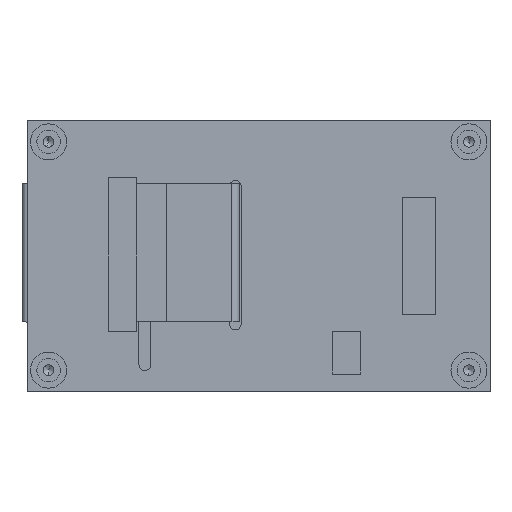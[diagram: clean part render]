
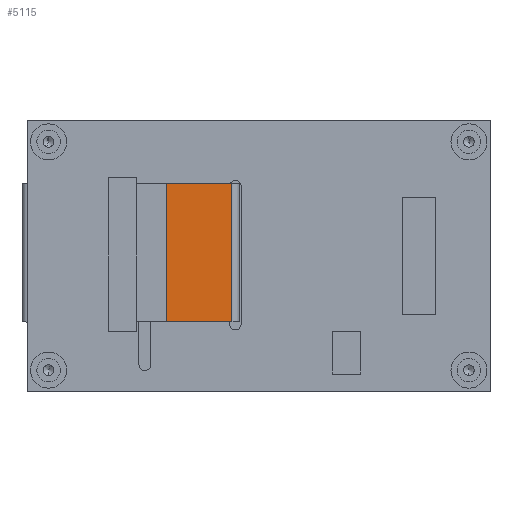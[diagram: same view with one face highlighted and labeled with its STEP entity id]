
A CAD part, front view. The second image highlights one B-rep face of the part: STEP entity #5115.
In plain terms, the highlighted planar face has unit normal (0, -1, 0) as drawn and (0, 1, 0) by its records, which use the part's own axes.
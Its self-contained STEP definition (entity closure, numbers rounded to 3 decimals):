
#109 = CARTESIAN_POINT ( 'NONE',  ( 25.76, 2.33, -11.5 ) ) ;
#182 = CARTESIAN_POINT ( 'NONE',  ( 25.76, 2.33, -11.5 ) ) ;
#201 = CARTESIAN_POINT ( 'NONE',  ( 60.39, 2.33, 11.5 ) ) ;
#971 = AXIS2_PLACEMENT_3D ( 'NONE', #1850, #1428, #3079 ) ;
#992 = VERTEX_POINT ( 'NONE', #182 ) ;
#1205 = EDGE_CURVE ( 'NONE', #4146, #992, #5198, .T. ) ;
#1283 = VECTOR ( 'NONE', #1422, 1000. ) ;
#1422 = DIRECTION ( 'NONE',  ( 0., 0., 1. ) ) ;
#1428 = DIRECTION ( 'NONE',  ( 0., 1., 0. ) ) ;
#1702 = CARTESIAN_POINT ( 'NONE',  ( 25.76, 2.33, 11.5 ) ) ;
#1804 = EDGE_LOOP ( 'NONE', ( #1920, #5186, #2096, #2643 ) ) ;
#1850 = CARTESIAN_POINT ( 'NONE',  ( 74.66, 2.33, 12. ) ) ;
#1920 = ORIENTED_EDGE ( 'NONE', *, *, #3974, .F. ) ;
#2096 = ORIENTED_EDGE ( 'NONE', *, *, #4456, .F. ) ;
#2470 = VECTOR ( 'NONE', #3744, 1000. ) ;
#2643 = ORIENTED_EDGE ( 'NONE', *, *, #5227, .F. ) ;
#2796 = VERTEX_POINT ( 'NONE', #3731 ) ;
#2882 = CARTESIAN_POINT ( 'NONE',  ( 20.76, 2.33, -11.5 ) ) ;
#3041 = CARTESIAN_POINT ( 'NONE',  ( 36.65, 2.33, 12. ) ) ;
#3079 = DIRECTION ( 'NONE',  ( 0., 0., -1. ) ) ;
#3417 = CARTESIAN_POINT ( 'NONE',  ( 36.65, 2.33, 11.5 ) ) ;
#3451 = DIRECTION ( 'NONE',  ( 0., 0., -1. ) ) ;
#3511 = LINE ( 'NONE', #201, #4355 ) ;
#3731 = CARTESIAN_POINT ( 'NONE',  ( 36.65, 2.33, -11.5 ) ) ;
#3744 = DIRECTION ( 'NONE',  ( 1., 0., 0. ) ) ;
#3939 = PLANE ( 'NONE',  #971 ) ;
#3974 = EDGE_CURVE ( 'NONE', #992, #2796, #5260, .T. ) ;
#4098 = FACE_OUTER_BOUND ( 'NONE', #1804, .T. ) ;
#4146 = VERTEX_POINT ( 'NONE', #1702 ) ;
#4355 = VECTOR ( 'NONE', #4750, 1000. ) ;
#4415 = LINE ( 'NONE', #3041, #1283 ) ;
#4442 = VECTOR ( 'NONE', #3451, 1000. ) ;
#4456 = EDGE_CURVE ( 'NONE', #5055, #4146, #3511, .T. ) ;
#4750 = DIRECTION ( 'NONE',  ( -1., 0., 0. ) ) ;
#5055 = VERTEX_POINT ( 'NONE', #3417 ) ;
#5115 = ADVANCED_FACE ( 'NONE', ( #4098 ), #3939, .T. ) ;
#5186 = ORIENTED_EDGE ( 'NONE', *, *, #1205, .F. ) ;
#5198 = LINE ( 'NONE', #109, #4442 ) ;
#5227 = EDGE_CURVE ( 'NONE', #2796, #5055, #4415, .T. ) ;
#5260 = LINE ( 'NONE', #2882, #2470 ) ;
